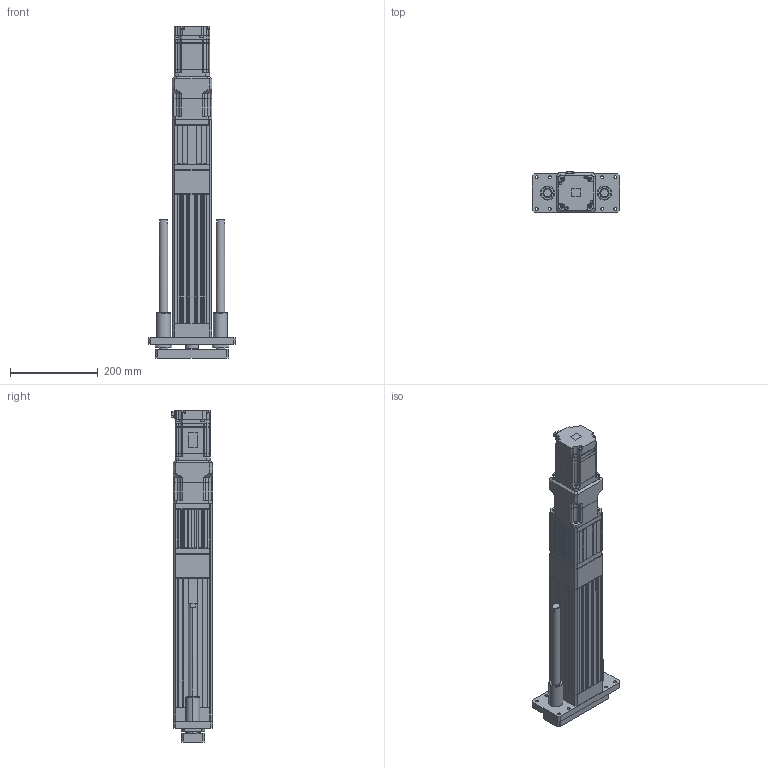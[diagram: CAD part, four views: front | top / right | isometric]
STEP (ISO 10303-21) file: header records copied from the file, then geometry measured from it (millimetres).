
FILE_DESCRIPTION (( 'STEP AP203' ), '1' );
FILE_NAME ('ANS090H-GS150-05(10)(25)-W75G05.STEP', '2019-03-18T01:51:23', ( 'user' ), ( '' ), 'SwSTEP 2.0', 'SolidWorks 2013', '' );
FILE_SCHEMA (( 'CONFIG_CONTROL_DESIGN' ));
Length unit declared in the file: millimetre
Products named in the file (5): SGMJV_08A_A21; AB090-005-S1-P2[YASKAWA SGMJV08A]; ANS090H-GS150-05(10)(25)-W75G05; ANS090H GS150 VER2; ANS090 ROD ST150-G
Assembly tree (4 placements, depth 2):
  ANS090H-GS150-05(10)(25)-W75G05
    ANS090H GS150 VER2
    ANS090 ROD ST150-G
    SGMJV_08A_A21
    AB090-005-S1-P2[YASKAWA SGMJV08A]
Bounding box: 200 x 93.8 x 758.1 mm (x, y, z)
Volume: 3541689.7 mm3; surface area: 651715.6 mm2
Topology: 3 solids, 14 shells, 1903 faces, 5056 edges, 3262 vertices
Faces by surface type: plane 1124, cylinder 581, cone 182, bspline 12, torus 4
Entity records: 59660 total; most frequent: CARTESIAN_POINT 11290, ORIENTED_EDGE 9984, DIRECTION 9947, EDGE_CURVE 5036, VECTOR 3517, LINE 3517, VERTEX_POINT 3262, AXIS2_PLACEMENT_3D 3215
